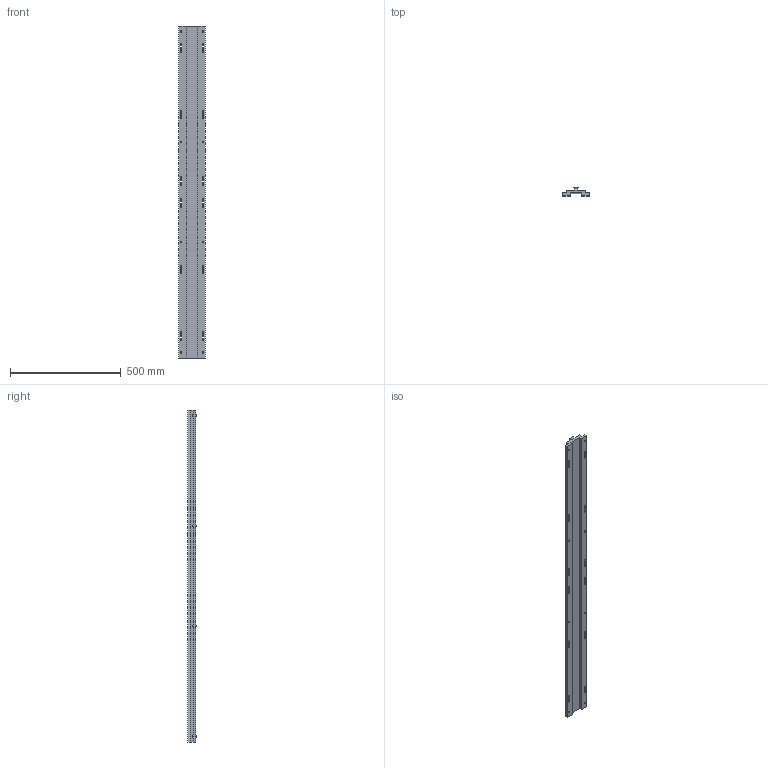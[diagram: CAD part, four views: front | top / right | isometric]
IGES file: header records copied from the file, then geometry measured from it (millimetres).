
Start section:  PTC IGES file: EOB03.igs
Global section: file name: EOB03.igs; native system: Pro/ENGINEER by Parametric Technology Corporation; preprocessor: 2006460; author: Owner; organization: Unknown; date: 20141216.114754; units: millimetre
Bounding box: 120 x 38.81 x 1500 mm (x, y, z)
Surface area: 550320 mm2 (no closed solid volume)
Topology: 0 solids, 0 shells, 178 faces, 1192 edges, 1336 vertices
Faces by surface type: revolution 96, bspline 82
